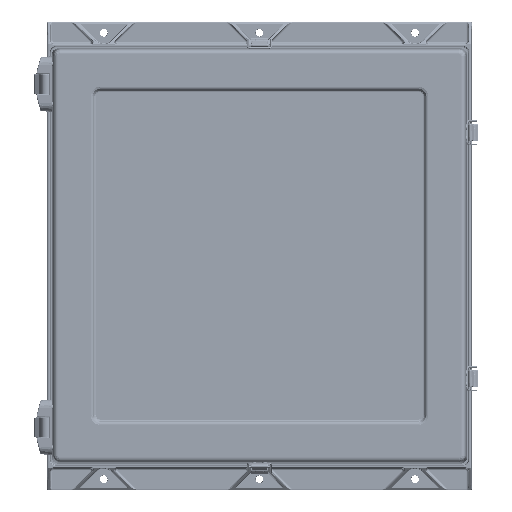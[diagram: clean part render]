
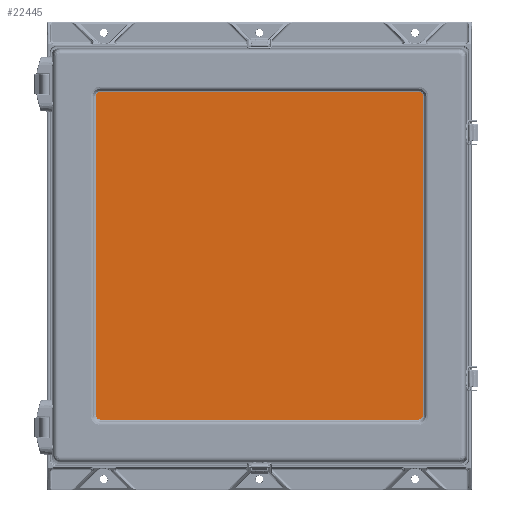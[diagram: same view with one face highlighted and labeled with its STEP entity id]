
A CAD part, top view. The second image highlights one B-rep face of the part: STEP entity #22445.
In plain terms, the highlighted planar face has unit normal (0, 0, 1).
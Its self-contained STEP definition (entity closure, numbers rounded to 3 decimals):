
#601 = EDGE_LOOP ( 'NONE', ( #72901, #72903, #72906, #72908, #72910, #72912, #72914, #72917 ) ) ;
#3417 = CARTESIAN_POINT ( 'NONE',  ( -9.582, -9.592, 1. ) ) ;
#3419 = PLANE ( 'NONE',  #107484 ) ;
#3430 = DIRECTION ( 'NONE',  ( 0., 0., 1. ) ) ;
#3432 = DIRECTION ( 'NONE',  ( 1., 0., 0. ) ) ;
#9008 =( BOUNDED_CURVE ( )  B_SPLINE_CURVE ( 3, ( #122524, #122537, #122538, #122539 ),
 .UNSPECIFIED., .F., .T. ) 
 B_SPLINE_CURVE_WITH_KNOTS ( ( 4, 4 ),
 ( 2.357, 3.926 ),
 .UNSPECIFIED. ) 
 CURVE ( )  GEOMETRIC_REPRESENTATION_ITEM ( )  RATIONAL_B_SPLINE_CURVE ( ( 1., 0.805, 0.805, 1. ) ) 
 REPRESENTATION_ITEM ( '' )  );
#9235 =( BOUNDED_CURVE ( )  B_SPLINE_CURVE ( 3, ( #122541, #122558, #122559, #122560 ),
 .UNSPECIFIED., .F., .F. ) 
 B_SPLINE_CURVE_WITH_KNOTS ( ( 4, 4 ),
 ( 2.357, 3.926 ),
 .UNSPECIFIED. ) 
 CURVE ( )  GEOMETRIC_REPRESENTATION_ITEM ( )  RATIONAL_B_SPLINE_CURVE ( ( 1., 0.805, 0.805, 1. ) ) 
 REPRESENTATION_ITEM ( '' )  );
#9255 =( BOUNDED_CURVE ( )  B_SPLINE_CURVE ( 3, ( #122547, #122563, #122564, #122565 ),
 .UNSPECIFIED., .F., .T. ) 
 B_SPLINE_CURVE_WITH_KNOTS ( ( 4, 4 ),
 ( 2.357, 3.926 ),
 .UNSPECIFIED. ) 
 CURVE ( )  GEOMETRIC_REPRESENTATION_ITEM ( )  RATIONAL_B_SPLINE_CURVE ( ( 1., 0.805, 0.805, 1. ) ) 
 REPRESENTATION_ITEM ( '' )  );
#9262 =( BOUNDED_CURVE ( )  B_SPLINE_CURVE ( 3, ( #122557, #122569, #122570, #122571 ),
 .UNSPECIFIED., .F., .F. ) 
 B_SPLINE_CURVE_WITH_KNOTS ( ( 4, 4 ),
 ( 2.357, 3.926 ),
 .UNSPECIFIED. ) 
 CURVE ( )  GEOMETRIC_REPRESENTATION_ITEM ( )  RATIONAL_B_SPLINE_CURVE ( ( 1., 0.805, 0.805, 1. ) ) 
 REPRESENTATION_ITEM ( '' )  );
#17237 = CARTESIAN_POINT ( 'NONE',  ( 9.204, -9.469, 1. ) ) ;
#17245 = CARTESIAN_POINT ( 'NONE',  ( -9.204, -9.469, 1. ) ) ;
#17252 = CARTESIAN_POINT ( 'NONE',  ( -9.459, -9.214, 1. ) ) ;
#17258 = CARTESIAN_POINT ( 'NONE',  ( -9.459, 9.214, 1. ) ) ;
#17262 = CARTESIAN_POINT ( 'NONE',  ( -9.204, 9.469, 1. ) ) ;
#17268 = CARTESIAN_POINT ( 'NONE',  ( 9.204, 9.469, 1. ) ) ;
#17272 = CARTESIAN_POINT ( 'NONE',  ( 9.459, 9.214, 1. ) ) ;
#17280 = CARTESIAN_POINT ( 'NONE',  ( 9.459, -9.214, 1. ) ) ;
#22445 = ADVANCED_FACE ( 'NONE', ( #113830 ), #3419, .T. ) ;
#51959 = EDGE_CURVE ( 'NONE', #82661, #82648, #9008, .T. ) ;
#51966 = EDGE_CURVE ( 'NONE', #82670, #82661, #122805, .T. ) ;
#51968 = EDGE_CURVE ( 'NONE', #82690, #82678, #122807, .T. ) ;
#51970 = EDGE_CURVE ( 'NONE', #82698, #82690, #9235, .T. ) ;
#51972 = EDGE_CURVE ( 'NONE', #82710, #82698, #122803, .T. ) ;
#51975 = EDGE_CURVE ( 'NONE', #82678, #82670, #9255, .T. ) ;
#51977 = EDGE_CURVE ( 'NONE', #82648, #82635, #122809, .T. ) ;
#51980 = EDGE_CURVE ( 'NONE', #82635, #82710, #9262, .T. ) ;
#72901 = ORIENTED_EDGE ( 'NONE', *, *, #51972, .T. ) ;
#72903 = ORIENTED_EDGE ( 'NONE', *, *, #51970, .T. ) ;
#72906 = ORIENTED_EDGE ( 'NONE', *, *, #51968, .T. ) ;
#72908 = ORIENTED_EDGE ( 'NONE', *, *, #51975, .T. ) ;
#72910 = ORIENTED_EDGE ( 'NONE', *, *, #51966, .T. ) ;
#72912 = ORIENTED_EDGE ( 'NONE', *, *, #51959, .T. ) ;
#72914 = ORIENTED_EDGE ( 'NONE', *, *, #51977, .T. ) ;
#72917 = ORIENTED_EDGE ( 'NONE', *, *, #51980, .T. ) ;
#82635 = VERTEX_POINT ( 'NONE', #17237 ) ;
#82648 = VERTEX_POINT ( 'NONE', #17245 ) ;
#82661 = VERTEX_POINT ( 'NONE', #17252 ) ;
#82670 = VERTEX_POINT ( 'NONE', #17258 ) ;
#82678 = VERTEX_POINT ( 'NONE', #17262 ) ;
#82690 = VERTEX_POINT ( 'NONE', #17268 ) ;
#82698 = VERTEX_POINT ( 'NONE', #17272 ) ;
#82710 = VERTEX_POINT ( 'NONE', #17280 ) ;
#107484 = AXIS2_PLACEMENT_3D ( 'NONE', #3417, #3430, #3432 ) ;
#113830 = FACE_OUTER_BOUND ( 'NONE', #601, .T. ) ;
#122524 = CARTESIAN_POINT ( 'NONE',  ( -9.459, -9.214, 1. ) ) ;
#122537 = CARTESIAN_POINT ( 'NONE',  ( -9.459, -9.363, 1. ) ) ;
#122538 = CARTESIAN_POINT ( 'NONE',  ( -9.353, -9.469, 1. ) ) ;
#122539 = CARTESIAN_POINT ( 'NONE',  ( -9.204, -9.469, 1. ) ) ;
#122541 = CARTESIAN_POINT ( 'NONE',  ( 9.459, 9.214, 1. ) ) ;
#122547 = CARTESIAN_POINT ( 'NONE',  ( -9.204, 9.469, 1. ) ) ;
#122552 = CARTESIAN_POINT ( 'NONE',  ( -9.459, -9.592, 1. ) ) ;
#122553 = DIRECTION ( 'NONE',  ( 0., -1., 0. ) ) ;
#122554 = CARTESIAN_POINT ( 'NONE',  ( -9.582, 9.469, 1. ) ) ;
#122555 = DIRECTION ( 'NONE',  ( -1., 0., 0. ) ) ;
#122557 = CARTESIAN_POINT ( 'NONE',  ( 9.204, -9.469, 1. ) ) ;
#122558 = CARTESIAN_POINT ( 'NONE',  ( 9.459, 9.363, 1. ) ) ;
#122559 = CARTESIAN_POINT ( 'NONE',  ( 9.353, 9.469, 1. ) ) ;
#122560 = CARTESIAN_POINT ( 'NONE',  ( 9.204, 9.469, 1. ) ) ;
#122561 = CARTESIAN_POINT ( 'NONE',  ( 9.459, -9.592, 1. ) ) ;
#122562 = DIRECTION ( 'NONE',  ( 0., 1., 0. ) ) ;
#122563 = CARTESIAN_POINT ( 'NONE',  ( -9.353, 9.469, 1. ) ) ;
#122564 = CARTESIAN_POINT ( 'NONE',  ( -9.459, 9.363, 1. ) ) ;
#122565 = CARTESIAN_POINT ( 'NONE',  ( -9.459, 9.214, 1. ) ) ;
#122566 = CARTESIAN_POINT ( 'NONE',  ( -9.582, -9.469, 1. ) ) ;
#122567 = DIRECTION ( 'NONE',  ( 1., 0., 0. ) ) ;
#122569 = CARTESIAN_POINT ( 'NONE',  ( 9.353, -9.469, 1. ) ) ;
#122570 = CARTESIAN_POINT ( 'NONE',  ( 9.459, -9.363, 1. ) ) ;
#122571 = CARTESIAN_POINT ( 'NONE',  ( 9.459, -9.214, 1. ) ) ;
#122803 = LINE ( 'NONE', #122561, #122810 ) ;
#122805 = LINE ( 'NONE', #122552, #122806 ) ;
#122806 = VECTOR ( 'NONE', #122553, 39.37 ) ;
#122807 = LINE ( 'NONE', #122554, #122808 ) ;
#122808 = VECTOR ( 'NONE', #122555, 39.37 ) ;
#122809 = LINE ( 'NONE', #122566, #122811 ) ;
#122810 = VECTOR ( 'NONE', #122562, 39.37 ) ;
#122811 = VECTOR ( 'NONE', #122567, 39.37 ) ;
